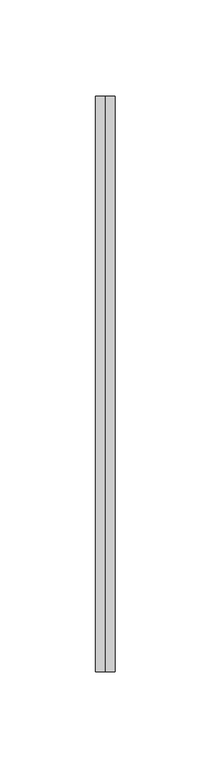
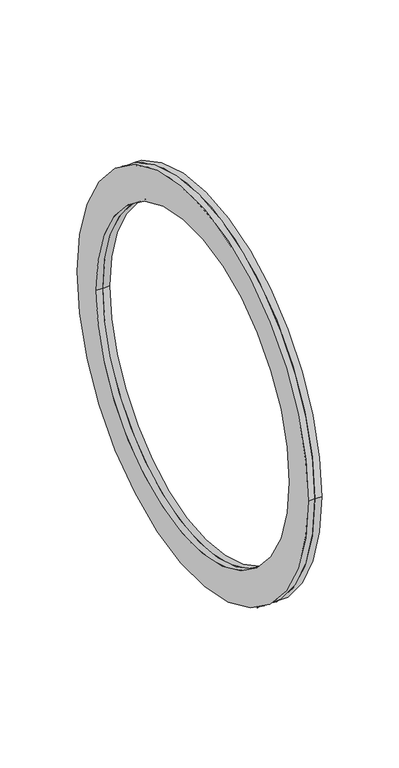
"""IFC4 building model written with IfcOpenShell, lengths in millimetres: duct fitting geometry, BL_ФланецВоздуховдов-Двойной_Круглый_БезКоннекторов : BL_ФланецВоздуховдов-Двойной_Круглый_БезКоннекторов."""

from ifc_helpers import new_model, si_unit, point, frame, frame_2d, origin, place, context, project, spatial, circle_curve, trimmed, segment, composite_curve, outline, extrude, source, transform, mapped, element, save


def duct_fitting_cf778fcf(model_context):
    return source(origin(), model_context, "Body", "SweptSolid", [
        extrude(outline(composite_curve([segment(trimmed(circle_curve(frame_2d((-45.6742229, 0.0)), 150.0), [point((-195.6742229, 0.0))], [point((104.3257771, 0.0))], False, "CARTESIAN"), True, "CONTINUOUS"), segment(trimmed(circle_curve(frame_2d((-45.6742229, 0.0)), 150.0), [point((104.3257771, 0.0))], [point((-195.6742229, 0.0))], False, "CARTESIAN"), True, "CONTINUOUS")], self_intersect=False), holes=[composite_curve([segment(trimmed(circle_curve(frame_2d((-45.6742229, 0.0)), 125.0), [point((-170.6742229, 0.0))], [point((79.3257771, 0.0))], True, "CARTESIAN"), True, "CONTINUOUS"), segment(trimmed(circle_curve(frame_2d((-45.6742229, 0.0)), 125.0), [point((79.3257771, 0.0))], [point((-170.6742229, 0.0))], True, "CARTESIAN"), True, "CONTINUOUS")], self_intersect=False)]), frame((0.0, 0.0, 0.0), z_axis=(1.0, 0.0, 0.0), x_axis=(0.0, 1.0, 0.0)), (0.0, 0.0, 1.0), 5.0),
        extrude(outline(composite_curve([segment(trimmed(circle_curve(frame_2d((-45.6742229, 0.0)), 150.0), [point((-195.6742229, 0.0))], [point((104.3257771, 0.0))], False, "CARTESIAN"), True, "CONTINUOUS"), segment(trimmed(circle_curve(frame_2d((-45.6742229, 0.0)), 150.0), [point((104.3257771, 0.0))], [point((-195.6742229, 0.0))], False, "CARTESIAN"), True, "CONTINUOUS")], self_intersect=False), holes=[composite_curve([segment(trimmed(circle_curve(frame_2d((-45.6742229, 0.0)), 125.0), [point((-170.6742229, 0.0))], [point((79.3257771, 0.0))], True, "CARTESIAN"), True, "CONTINUOUS"), segment(trimmed(circle_curve(frame_2d((-45.6742229, 0.0)), 125.0), [point((79.3257771, 0.0))], [point((-170.6742229, 0.0))], True, "CARTESIAN"), True, "CONTINUOUS")], self_intersect=False)]), frame((-5.0, 0.0, 0.0), z_axis=(1.0, 0.0, 0.0), x_axis=(0.0, 1.0, 0.0)), (0.0, 0.0, 1.0), 5.0),
    ])


if __name__ == "__main__":
    model = new_model("IFC4")
    model_context = context("Model", 3, world=origin())
    ifc_project = project(units=[si_unit("LENGTHUNIT", "METRE", prefix="MILLI")], contexts=[model_context])
    site = spatial("IfcSite", under=ifc_project)
    building = spatial("IfcBuilding", under=site)
    placement = place(None, origin())
    duct_fitting_shape = duct_fitting_cf778fcf(model_context)
    element("IfcDuctFitting", 1, ObjectType="BL_ФланецВоздуховдов-Двойной_Круглый_БезКоннекторов : BL_ФланецВоздуховдов-Двойной_Круглый_БезКоннекторов", at=placement, inside=building, context=model_context, shape_type="MappedRepresentation", body=[
        mapped(duct_fitting_shape, transform((0.0, 0.0, 0.0), x_axis=(1.0, 0.0, 0.0), y_axis=(0.0, 1.0, 0.0), z_axis=(0.0, 0.0, 1.0))),
    ])
    save(model, "model.ifc")
